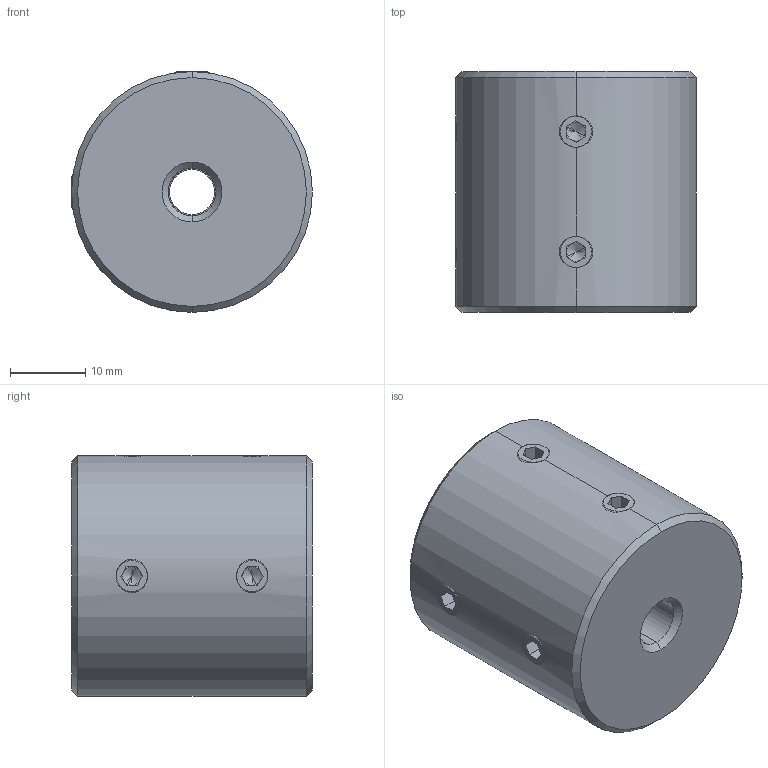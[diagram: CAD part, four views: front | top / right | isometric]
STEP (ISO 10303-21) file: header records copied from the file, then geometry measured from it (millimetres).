
FILE_DESCRIPTION (( 'STEP AP214' ), '1' );
FILE_NAME ('LL-D-D32L32-6-6.35½¨Ä£.STEP', '2022-07-22T11:16:42', ( '' ), ( '' ), 'SwSTEP 2.0', 'SolidWorks 2022', '' );
FILE_SCHEMA (( 'AUTOMOTIVE_DESIGN' ));
Length unit declared in the file: millimetre
Products named in the file (1): LL-D-D32L32-6-6.35膘耀
Bounding box: 32 x 32 x 32 mm (x, y, z)
Volume: 24368.2 mm3; surface area: 5653.4 mm2
Topology: 1 solids, 1 shells, 113 faces, 286 edges, 176 vertices
Faces by surface type: plane 59, cone 32, cylinder 22
Entity records: 3746 total; most frequent: CARTESIAN_POINT 1036, DIRECTION 558, ORIENTED_EDGE 556, EDGE_CURVE 278, AXIS2_PLACEMENT_3D 206, VERTEX_POINT 176, VECTOR 146, LINE 146
